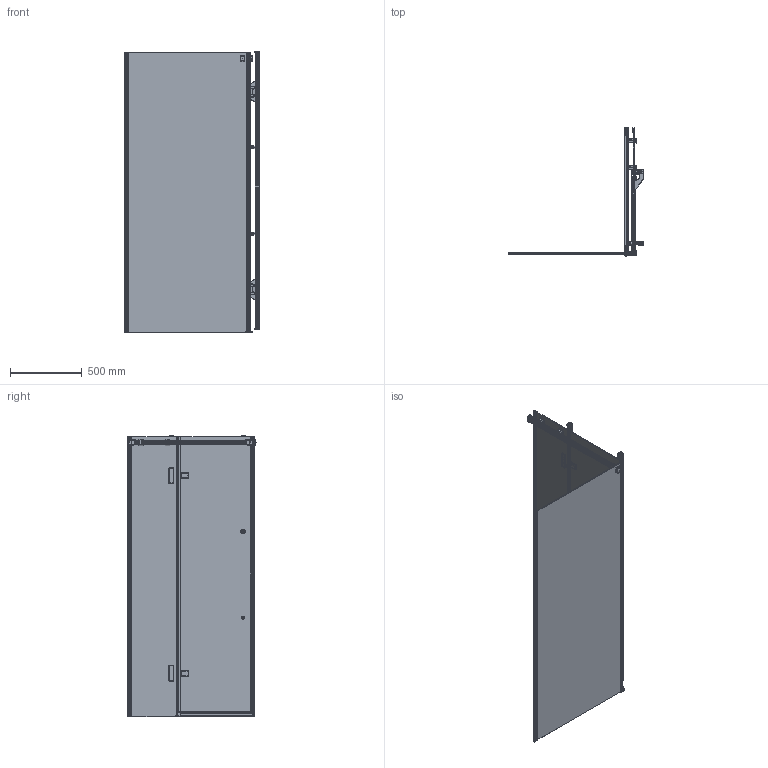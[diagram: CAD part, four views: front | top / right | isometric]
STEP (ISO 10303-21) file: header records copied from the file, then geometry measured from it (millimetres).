
FILE_DESCRIPTION(/* description */ (''),/* implementation_level */ '2;1');
FILE_NAME(/* name */ 'SCV-3002',/* time_stamp */ '2023-11-12T13:10:56+08:00',/* author */ (''),/* organization */ (''),/* preprocessor_version */ 'ST-DEVELOPER v9',/* originating_system */ 'UGS - NX 4.0',/* authorisation */ '');
FILE_SCHEMA (('AUTOMOTIVE_DESIGN { 1 0 10303 214 1 1 1 1 }'));
Products named in the file (1): AdmiC3CDzvit
Bounding box: 942.05 x 891.25 x 1959.3 mm (x, y, z)
Volume: 22181495 mm3; surface area: 10446291.7 mm2
Topology: 69 solids, 69 shells, 3665 faces, 9487 edges, 5924 vertices
Faces by surface type: plane 1459, cylinder 1426, bspline 341, torus 184, sphere 137, cone 115, revolution 3
Full cylindrical faces by diameter (mm): 1.2 x8, 2 x8, 2.2 x8, 2.8 x1, 3 x10, 3.1 x10, 3.2 x10, 4 x2, 4.2 x18, 5 x6, 5.2 x6, 5.4 x8, 5.5 x2, 5.8 x4, 6 x10, 6.5 x4, 7.8 x4, 8 x8, 8.2 x2, 8.8 x1, 9.5 x6, 9.7 x4, 10 x9, 10.8 x4, 11 x2, 11.2 x3, 11.7 x4, 11.8 x4, 11.9 x2, 12 x6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
Entity records: 124373 total; most frequent: CARTESIAN_POINT 35224, DIRECTION 18681, ORIENTED_EDGE 17718, EDGE_CURVE 8859, AXIS2_PLACEMENT_3D 6956, VERTEX_POINT 5708, LINE 4766, VECTOR 4766
